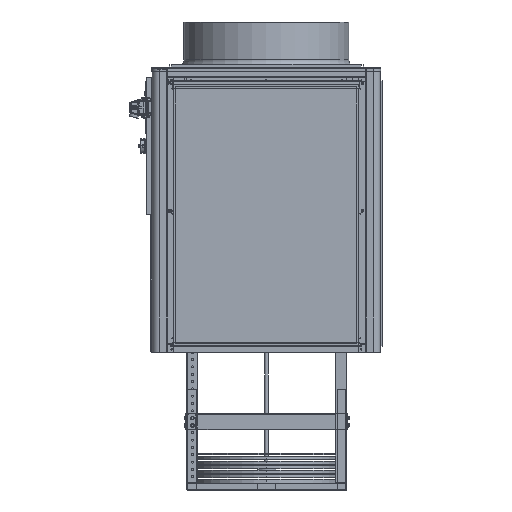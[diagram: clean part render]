
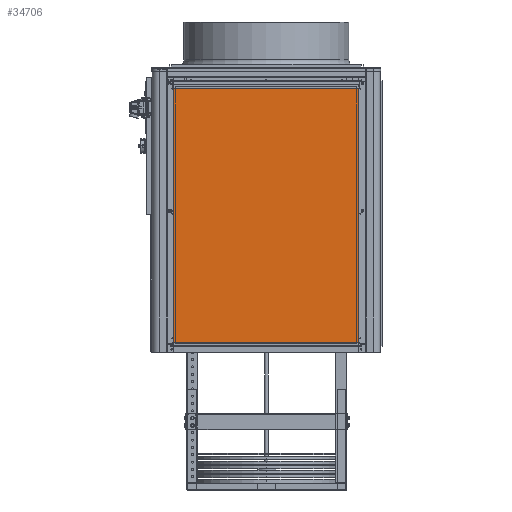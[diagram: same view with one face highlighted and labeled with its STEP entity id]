
A CAD part, front view. The second image highlights one B-rep face of the part: STEP entity #34706.
In plain terms, the highlighted planar face has unit normal (0, -1, 0) as drawn and (0, 0, 1) by its records, which use the part's own axes.
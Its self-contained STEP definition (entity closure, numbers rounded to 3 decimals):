
#1410 = FACE_OUTER_BOUND ( 'NONE', #144829, .T. ) ;
#2881 = VECTOR ( 'NONE', #163814, 1000. ) ;
#5459 = EDGE_CURVE ( 'NONE', #45223, #134875, #99203, .T. ) ;
#8106 = CARTESIAN_POINT ( 'NONE',  ( 0., 0., 0. ) ) ;
#15149 = ORIENTED_EDGE ( 'NONE', *, *, #113113, .T. ) ;
#25325 = PLANE ( 'NONE',  #123015 ) ;
#29441 = LINE ( 'NONE', #55952, #2881 ) ;
#30202 = CARTESIAN_POINT ( 'NONE',  ( 0., 0., 0. ) ) ;
#34706 = ADVANCED_FACE ( 'NONE', ( #1410 ), #25325, .F. ) ;
#35423 = LINE ( 'NONE', #128232, #172840 ) ;
#36282 = ORIENTED_EDGE ( 'NONE', *, *, #107057, .T. ) ;
#36283 = DIRECTION ( 'NONE',  ( 0., 1., 0. ) ) ;
#43979 = CARTESIAN_POINT ( 'NONE',  ( 0., 1140., 0. ) ) ;
#45223 = VERTEX_POINT ( 'NONE', #43979 ) ;
#50028 = CARTESIAN_POINT ( 'NONE',  ( 0., 1140., 0. ) ) ;
#54825 = VECTOR ( 'NONE', #89794, 1000. ) ;
#55952 = CARTESIAN_POINT ( 'NONE',  ( 0., 0., 0. ) ) ;
#62310 = ORIENTED_EDGE ( 'NONE', *, *, #70692, .T. ) ;
#70692 = EDGE_CURVE ( 'NONE', #136429, #162037, #35423, .T. ) ;
#76551 = LINE ( 'NONE', #50028, #54825 ) ;
#79219 = CARTESIAN_POINT ( 'NONE',  ( 0., 0., 0. ) ) ;
#89794 = DIRECTION ( 'NONE',  ( -1., 0., 0. ) ) ;
#99203 = LINE ( 'NONE', #8106, #123391 ) ;
#107057 = EDGE_CURVE ( 'NONE', #134875, #136429, #29441, .T. ) ;
#113113 = EDGE_CURVE ( 'NONE', #162037, #45223, #76551, .T. ) ;
#114172 = DIRECTION ( 'NONE',  ( 0., -1., 0. ) ) ;
#117707 = ORIENTED_EDGE ( 'NONE', *, *, #5459, .T. ) ;
#123015 = AXIS2_PLACEMENT_3D ( 'NONE', #79219, #174713, #160572 ) ;
#123391 = VECTOR ( 'NONE', #114172, 1000. ) ;
#127673 = CARTESIAN_POINT ( 'NONE',  ( 810., 1140., 0. ) ) ;
#128232 = CARTESIAN_POINT ( 'NONE',  ( 810., 0., 0. ) ) ;
#133515 = CARTESIAN_POINT ( 'NONE',  ( 810., 0., 0. ) ) ;
#134875 = VERTEX_POINT ( 'NONE', #30202 ) ;
#136429 = VERTEX_POINT ( 'NONE', #133515 ) ;
#144829 = EDGE_LOOP ( 'NONE', ( #117707, #36282, #62310, #15149 ) ) ;
#160572 = DIRECTION ( 'NONE',  ( 0., -1., 0. ) ) ;
#162037 = VERTEX_POINT ( 'NONE', #127673 ) ;
#163814 = DIRECTION ( 'NONE',  ( 1., 0., 0. ) ) ;
#172840 = VECTOR ( 'NONE', #36283, 1000. ) ;
#174713 = DIRECTION ( 'NONE',  ( 0., 0., -1. ) ) ;
